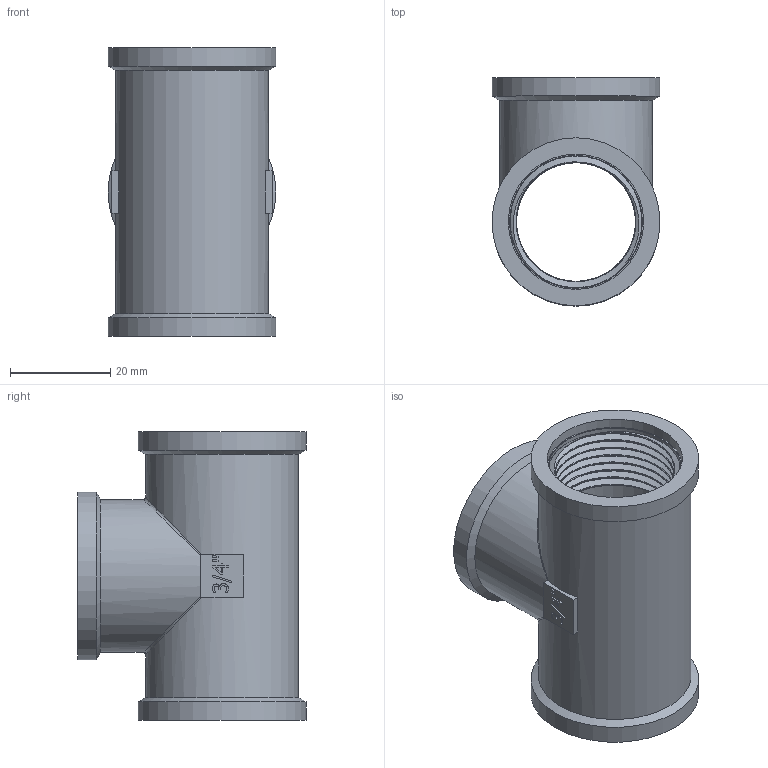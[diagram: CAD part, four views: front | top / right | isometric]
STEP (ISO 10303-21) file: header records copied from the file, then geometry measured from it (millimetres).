
FILE_DESCRIPTION(/* description */ (''),/* implementation_level */ '2;1');
FILE_NAME(/* name */ 'C:\Users\Doom\Desktop\Фадотех\Резьба\T02 18.03.2020\T02 18.03.2020.stp',/* time_stamp */ '2022-01-19T21:26:47+02:00',/* author */ ('Doom'),/* organization */ (''),/* preprocessor_version */ 'ST-DEVELOPER v18',/* originating_system */ 'Autodesk Inventor 2020',/* authorisation */ '');
FILE_SCHEMA (('AUTOMOTIVE_DESIGN { 1 0 10303 214 3 1 1 }'));
Length unit declared in the file: millimetre
Products named in the file (1): T02 18.03.2020
Bounding box: 33.5 x 45.5 x 57.5 mm (x, y, z)
Volume: 21917.4 mm3; surface area: 23916.2 mm2
Topology: 4 solids, 4 shells, 173 faces, 481 edges, 323 vertices
Faces by surface type: plane 81, cylinder 46, bspline 43, cone 3
Full cylindrical faces by diameter (mm): 23.71 x8, 23.75 x16, 24 x2, 26.4 x2, 26.44 x4, 27 x3, 30.5 x2, 33.5 x3
Entity records: 18007 total; most frequent: CARTESIAN_POINT 13914, ORIENTED_EDGE 938, DIRECTION 661, EDGE_CURVE 469, VERTEX_POINT 317, LINE 233, VECTOR 233, AXIS2_PLACEMENT_3D 214
